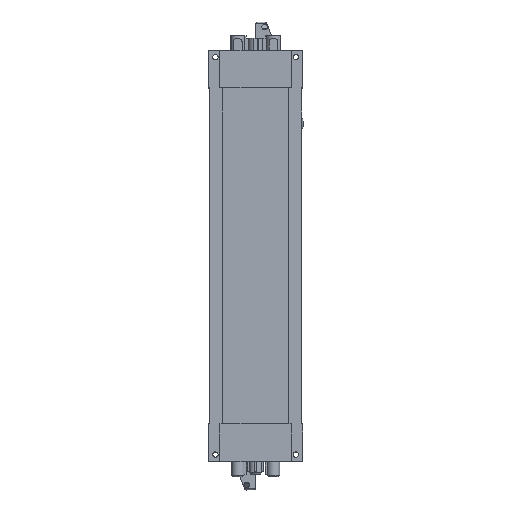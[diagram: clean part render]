
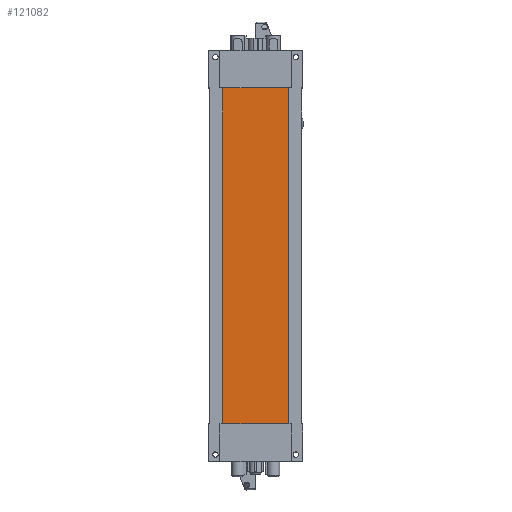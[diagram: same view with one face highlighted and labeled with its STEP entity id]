
A CAD part, top view. The second image highlights one B-rep face of the part: STEP entity #121082.
In plain terms, the highlighted planar face has unit normal (0, 0, 1).
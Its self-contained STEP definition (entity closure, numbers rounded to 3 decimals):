
#10806=FACE_OUTER_BOUND('',#17284,.T.);
#17284=EDGE_LOOP('',(#89949,#89950,#89951,#89952));
#23716=LINE('',#173170,#35856);
#23812=LINE('',#173586,#35952);
#25377=LINE('',#177711,#37517);
#27709=LINE('',#184418,#39849);
#35856=VECTOR('',#139276,10.);
#35952=VECTOR('',#139478,10.);
#37517=VECTOR('',#142581,10.);
#39849=VECTOR('',#148141,10.);
#47791=VERTEX_POINT('',#173167);
#47792=VERTEX_POINT('',#173169);
#47902=VERTEX_POINT('',#173583);
#47903=VERTEX_POINT('',#173585);
#59896=EDGE_CURVE('',#47791,#47792,#23716,.T.);
#60028=EDGE_CURVE('',#47903,#47902,#23812,.T.);
#61900=EDGE_CURVE('',#47792,#47902,#25377,.T.);
#64772=EDGE_CURVE('',#47903,#47791,#27709,.T.);
#89949=ORIENTED_EDGE('',*,*,#59896,.F.);
#89950=ORIENTED_EDGE('',*,*,#64772,.F.);
#89951=ORIENTED_EDGE('',*,*,#60028,.T.);
#89952=ORIENTED_EDGE('',*,*,#61900,.F.);
#110201=PLANE('',#128955);
#121082=ADVANCED_FACE('',(#10806),#110201,.T.);
#128955=AXIS2_PLACEMENT_3D('',#185065,#148720,#148721);
#139276=DIRECTION('',(0.,-1.,0.));
#139478=DIRECTION('',(0.,-1.,0.));
#142581=DIRECTION('',(-1.,0.,0.));
#148141=DIRECTION('',(1.,0.,0.));
#148720=DIRECTION('center_axis',(0.,0.,
1.));
#148721=DIRECTION('ref_axis',(0.,1.,0.));
#173167=CARTESIAN_POINT('',(45.7,177.3,-2.227));
#173169=CARTESIAN_POINT('',(45.7,-10.4,-2.227));
#173170=CARTESIAN_POINT('',(45.7,177.3,-2.227));
#173583=CARTESIAN_POINT('',(5.7,-10.4,-2.227));
#173585=CARTESIAN_POINT('',(5.7,177.3,-2.227));
#173586=CARTESIAN_POINT('',(5.7,177.3,-2.227));
#177711=CARTESIAN_POINT('',(15.701,-10.4,-2.227));
#184418=CARTESIAN_POINT('',(15.699,177.3,-2.227));
#185065=CARTESIAN_POINT('Origin',(5.7,177.3,-2.227));
